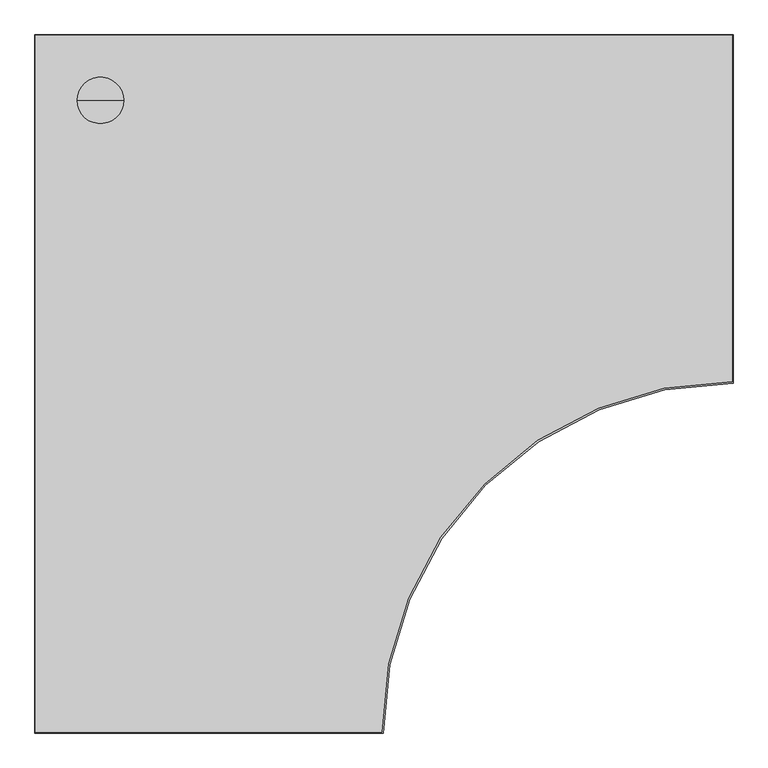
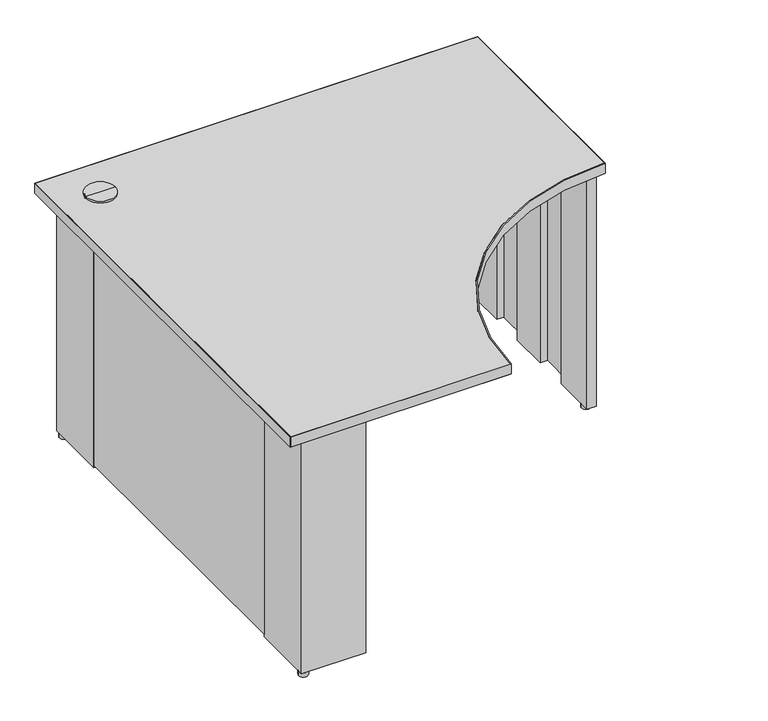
"""IFC4 building model written with IfcOpenShell, lengths in millimetres: furniture geometry, Steelcase - Kick Freestanding - Desk - Curve Corner - Full Height Modesty Panel : 24D x 48W - Right Full End Panel/Left Clear Access Support - LPL."""

from ifc_helpers import new_model, si_unit, point, frame, frame_2d, origin, origin_with_axes, place, context, project, spatial, polyline, circle_curve, trimmed, segment, composite_curve, outline, extrude, source, transform, mapped, element, save
from ifc_brep_helpers import plane_surface, cylinder_surface, advanced_brep


def furniture_67aa2764(model_context):
    return source(origin(), model_context, "Body", "SolidModel", [
        extrude(outline(composite_curve([segment(trimmed(circle_curve(frame_2d((1191.2853521, -565.8064761)), 12.7), [point((1178.5853521, -565.8064761))], [point((1203.9853521, -565.8064761))], False, "CARTESIAN"), True, "CONTINUOUS"), segment(trimmed(circle_curve(frame_2d((1191.2853521, -565.8064761)), 12.7), [point((1203.9853521, -565.8064761))], [point((1178.5853521, -565.8064761))], False, "CARTESIAN"), True, "CONTINUOUS")], self_intersect=False)), origin_with_axes(), (0.0, 0.0, 1.0), 12.446),
        extrude(outline(polyline([(215.8999939, -63.5), (63.5, -63.5), (63.5, -215.8999939), (38.1, -215.8999939), (38.1, -38.1), (215.8999939, -38.1), (215.8999939, -63.5)])), frame((0.0, 0.0, 12.446), z_axis=(0.0, 0.0, 1.0), x_axis=(1.0, 0.0, 0.0)), (0.0, 0.0, 1.0), 682.498),
        extrude(outline(polyline([(1026.4393822, -63.5), (1026.4393822, -38.1), (1204.2393579, -38.1), (1204.2393579, -592.582), (1178.3313463, -592.582), (1178.3313463, -469.5444), (1198.498945, -469.5444), (1198.498945, -369.824), (1178.3313463, -369.824), (1178.3313463, -261.0866), (1198.498945, -261.0866), (1198.498945, -161.3662), (1178.3313463, -161.3662), (1178.3313463, -63.5), (1026.4393822, -63.5)])), frame((0.0, 0.0, 12.446), z_axis=(0.0, 0.0, 1.0), x_axis=(1.0, 0.0, 0.0)), (0.0, 0.0, 1.0), 682.498),
        advanced_brep(
        [(114.3, -114.3, 728.98), (154.94, -114.3, 728.98), (73.66, -114.3, 728.98), (76.1699693, -114.3, 694.944), (152.4300307, -114.3, 694.944), (114.3, -114.3, 694.944), (76.1699693, -114.3, 723.9), (152.4300307, -114.3, 723.9), (73.66, -114.3, 723.9), (154.94, -114.3, 723.9)],
        [
            (0, 1),
            (1, 2, circle_curve(frame((114.3, -114.3, 728.98), z_axis=(0.0, 0.0, 1.0), x_axis=(1.0, 0.0, 0.0)), 40.64)),
            (2, 0),
            (2, 1, circle_curve(frame((114.3, -114.3, 728.98), z_axis=(0.0, 0.0, 1.0), x_axis=(1.0, 0.0, 0.0)), 40.64)),
            (3, 4, circle_curve(frame((114.3, -114.3, 694.944), z_axis=(0.0, 0.0, -1.0), x_axis=(1.0, 0.0, 0.0)), 38.1300307)),
            (4, 5),
            (5, 3),
            (4, 3, circle_curve(frame((114.3, -114.3, 694.944), z_axis=(0.0, 0.0, -1.0), x_axis=(1.0, 0.0, 0.0)), 38.1300307)),
            (6, 7, circle_curve(frame((114.3, -114.3, 723.9), z_axis=(0.0, 0.0, -1.0), x_axis=(1.0, 0.0, 0.0)), 38.1300307)),
            (7, 4),
            (3, 6),
            (7, 6, circle_curve(frame((114.3, -114.3, 723.9), z_axis=(0.0, 0.0, -1.0), x_axis=(1.0, 0.0, 0.0)), 38.1300307)),
            (8, 9, circle_curve(frame((114.3, -114.3, 723.9), z_axis=(0.0, 0.0, -1.0), x_axis=(1.0, 0.0, 0.0)), 40.64)),
            (9, 7),
            (6, 8),
            (9, 8, circle_curve(frame((114.3, -114.3, 723.9), z_axis=(0.0, 0.0, -1.0), x_axis=(1.0, 0.0, 0.0)), 40.64)),
            (1, 9),
            (8, 2),
        ],
        [
            plane_surface(frame((114.3, -114.3, 728.98), z_axis=(0.0, 0.0, 1.0), x_axis=(1.0, 0.0, 0.0))),
            plane_surface(frame((114.3, -114.3, 694.944), z_axis=(0.0, 0.0, -1.0), x_axis=(1.0, 0.0, 0.0))),
            cylinder_surface(frame((114.3, -114.3, 728.98), z_axis=(0.0, 0.0, 1.0), x_axis=(1.0, 0.0, 0.0)), 38.1300307),
            plane_surface(frame((114.3, -114.3, 723.9), z_axis=(0.0, 0.0, -1.0), x_axis=(1.0, 0.0, 0.0))),
            cylinder_surface(frame((114.3, -114.3, 728.98), z_axis=(0.0, 0.0, 1.0), x_axis=(1.0, 0.0, 0.0)), 40.64),
        ],
        [
            (0, [[1, 2, 3]]),
            (0, [[-3, 4, -1]]),
            (1, [[5, 6, 7]]),
            (1, [[8, -7, -6]]),
            (2, [[9, 10, -5, 11]]),
            (2, [[12, -11, -8, -10]]),
            (3, [[13, 14, -9, 15]]),
            (3, [[16, -15, -12, -14]]),
            (4, [[-2, 17, -13, 18]]),
            (4, [[-4, -18, -16, -17]]),
        ],
    ),
        extrude(outline(composite_curve([segment(trimmed(circle_curve(frame_2d((50.8, -50.8)), 12.7), [point((38.1, -50.8))], [point((63.5, -50.8))], False, "CARTESIAN"), True, "CONTINUOUS"), segment(trimmed(circle_curve(frame_2d((50.8, -50.8)), 12.7), [point((63.5, -50.8))], [point((38.1, -50.8))], False, "CARTESIAN"), True, "CONTINUOUS")], self_intersect=False)), origin_with_axes(), (0.0, 0.0, 1.0), 12.446),
        extrude(outline(composite_curve([segment(trimmed(circle_curve(frame_2d((50.8, -1192.5300073)), 12.7484998), [point((38.0515002, -1192.5300073))], [point((63.5484998, -1192.5300073))], False, "CARTESIAN"), True, "CONTINUOUS"), segment(trimmed(circle_curve(frame_2d((50.8, -1192.5300073)), 12.7484998), [point((63.5484998, -1192.5300073))], [point((38.0515002, -1192.5300073))], False, "CARTESIAN"), True, "CONTINUOUS")], self_intersect=False)), origin_with_axes(), (0.0, 0.0, 1.0), 12.446),
        extrude(outline(composite_curve([segment(trimmed(circle_curve(frame_2d((1191.2853521, -50.8)), 12.7), [point((1178.5853521, -50.8))], [point((1203.9853521, -50.8))], False, "CARTESIAN"), True, "CONTINUOUS"), segment(trimmed(circle_curve(frame_2d((1191.2853521, -50.8)), 12.7), [point((1203.9853521, -50.8))], [point((1178.5853521, -50.8))], False, "CARTESIAN"), True, "CONTINUOUS")], self_intersect=False)), origin_with_axes(), (0.0, 0.0, 1.0), 12.446),
        extrude(outline(polyline([(63.5, -215.8999939), (63.5, -1027.4300194), (38.1, -1027.4300194), (38.1, -215.8999939), (63.5, -215.8999939)])), frame((0.0, 0.0, 20.828), z_axis=(0.0, 0.0, 1.0), x_axis=(1.0, 0.0, 0.0)), (0.0, 0.0, 1.0), 674.116),
        extrude(outline(polyline([(1026.4393822, -38.1), (1026.4393822, -63.5), (215.8999939, -63.5), (215.8999939, -38.1), (1026.4393822, -38.1)])), frame((0.0, 0.0, 20.828), z_axis=(0.0, 0.0, 1.0), x_axis=(1.0, 0.0, 0.0)), (0.0, 0.0, 1.0), 674.116),
        extrude(outline(polyline([(215.8999939, -1179.8300194), (215.8999939, -1205.2299952), (38.1, -1205.2299952), (38.1, -1027.4300194), (63.5, -1027.4300194), (63.5, -1179.8300194), (215.8999939, -1179.8300194)])), frame((0.0, 0.0, 12.446), z_axis=(0.0, 0.0, 1.0), x_axis=(1.0, 0.0, 0.0)), (0.0, 0.0, 1.0), 682.498),
        extrude(outline(composite_curve([segment(polyline([(0.9906, -1218.2093628), (0.9906, -0.9906), (1218.2093628, -0.9906), (1218.2093628, -605.3354109)]), True, "CONTINUOUS"), segment(trimmed(circle_curve(frame_2d((1216.9393458, -1216.9393458)), 611.6052536), [point((1218.2093628, -605.3354109))], [point((605.3354109, -1218.2093628))], True, "CARTESIAN"), True, "CONTINUOUS"), segment(polyline([(605.3354109, -1218.2093628), (0.9906, -1218.2093628)]), True, "CONTINUOUS")], self_intersect=False)), frame((0.0, 0.0, 694.944), z_axis=(0.0, 0.0, 1.0), x_axis=(1.0, 0.0, 0.0)), (0.0, 0.0, 1.0), 28.956),
        extrude(outline(composite_curve([segment(polyline([(1219.2, 0.0), (1219.2, -608.332629)]), True, "CONTINUOUS"), segment(trimmed(circle_curve(frame_2d((1217.929983, -1217.929983)), 609.598677), [point((1219.2, -608.332629))], [point((608.332629, -1219.2))], True, "CARTESIAN"), True, "CONTINUOUS"), segment(polyline([(608.332629, -1219.2), (0.0, -1219.2), (0.0, 0.0), (1219.2, 0.0)]), True, "CONTINUOUS")], self_intersect=False), holes=[composite_curve([segment(polyline([(1218.2093628, -0.9906), (0.9906, -0.9906), (0.9906, -1218.2093628), (605.3354109, -1218.2093628)]), True, "CONTINUOUS"), segment(trimmed(circle_curve(frame_2d((1216.9393458, -1216.9393458)), 611.6052536), [point((605.3354109, -1218.2093628))], [point((1218.2093628, -605.3354109))], False, "CARTESIAN"), True, "CONTINUOUS"), segment(polyline([(1218.2093628, -605.3354109), (1218.2093628, -0.9906)]), True, "CONTINUOUS")], self_intersect=False)]), frame((0.0, 0.0, 694.944), z_axis=(0.0, 0.0, 1.0), x_axis=(1.0, 0.0, 0.0)), (0.0, 0.0, 1.0), 28.956),
    ])


if __name__ == "__main__":
    model = new_model("IFC4")
    model_context = context("Model", 3, world=origin())
    ifc_project = project(units=[si_unit("LENGTHUNIT", "METRE", prefix="MILLI")], contexts=[model_context])
    site = spatial("IfcSite", under=ifc_project)
    building = spatial("IfcBuilding", under=site)
    placement = place(None, origin())
    furniture_shape = furniture_67aa2764(model_context)
    element("IfcFurniture", 1, ObjectType="Steelcase - Kick Freestanding - Desk - Curve Corner - Full Height Modesty Panel : 24D x 48W - Right Full End Panel/Left Clear Access Support - LPL", at=placement, inside=building, context=model_context, shape_type="MappedRepresentation", body=[
        mapped(furniture_shape, transform((0.0, 0.0, 0.0), x_axis=(1.0, 0.0, 0.0), y_axis=(0.0, 1.0, 0.0), z_axis=(0.0, 0.0, 1.0))),
    ])
    save(model, "model.ifc")
